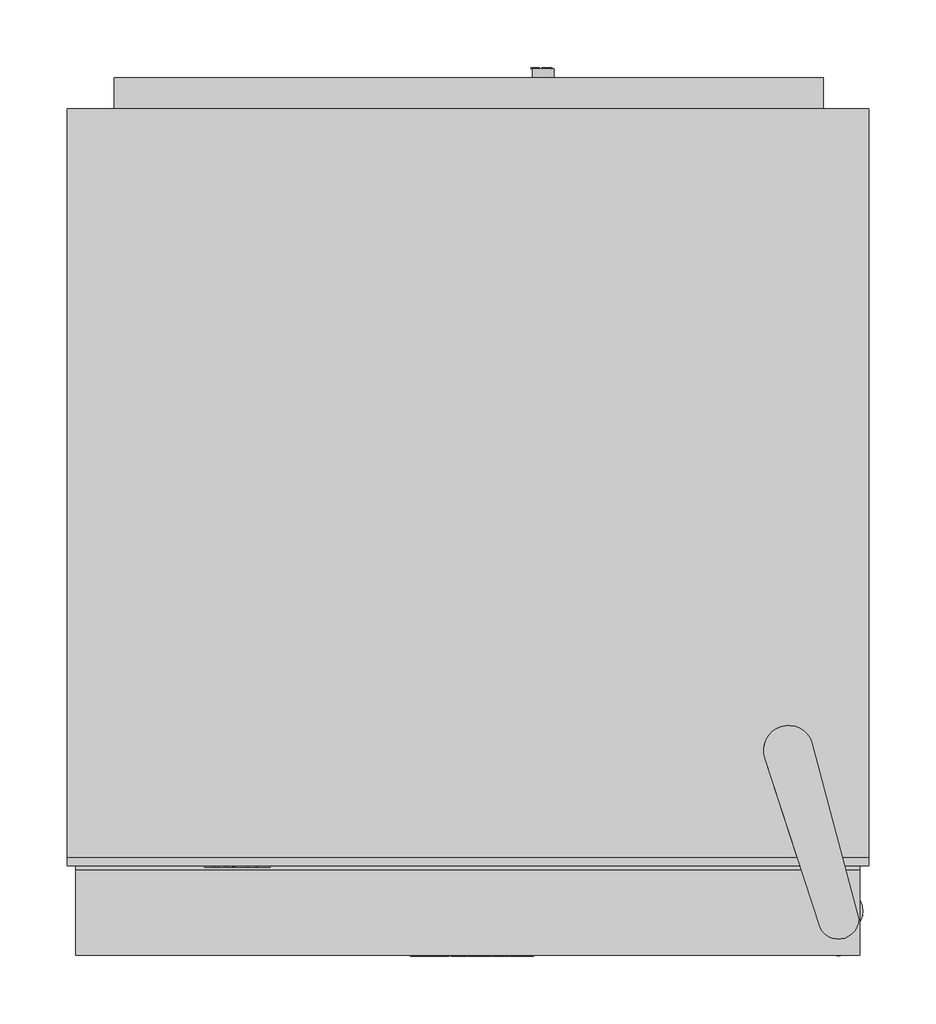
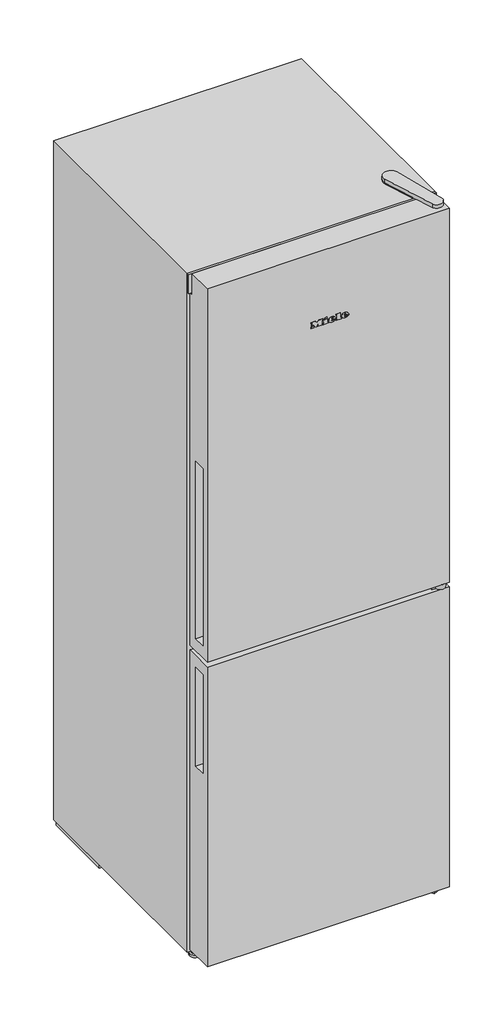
# Not in any storey: 1 proxy.
"""IFC4 building model written with IfcOpenShell, lengths in millimetres."""

from ifc_helpers import new_model, si_unit, origin, place, context, project, spatial, transform, mapped, element, save
from components import specialty_equipment_8ae80f27

model = new_model("IFC4")

# Units and contexts
model_context = context("Model", 3, world=origin())
ifc_project = project(units=[si_unit("LENGTHUNIT", "METRE", prefix="MILLI")], contexts=[model_context])

# Site, building
site = spatial("IfcSite", under=ifc_project)
building = spatial("IfcBuilding", under=site)

# Proxy
placement = place(None, origin())
specialty_equipment_shape = specialty_equipment_8ae80f27(model_context)
element("IfcBuildingElementProxy", 1, Name="11980300_EU1_KD4050E_EL : 38405051_EU1_11980300_KD4050E_EL", ObjectType="11980300_EU1_KD4050E_EL : 38405051_EU1_11980300_KD4050E_EL", at=placement, inside=building, context=model_context, shape_type="MappedRepresentation", body=[
    mapped(specialty_equipment_shape, transform((0.0, 0.0, 0.0), x_axis=(1.0, 0.0, 0.0), y_axis=(0.0, 1.0, 0.0), z_axis=(0.0, 0.0, 1.0))),
])

save(model, "model.ifc")
